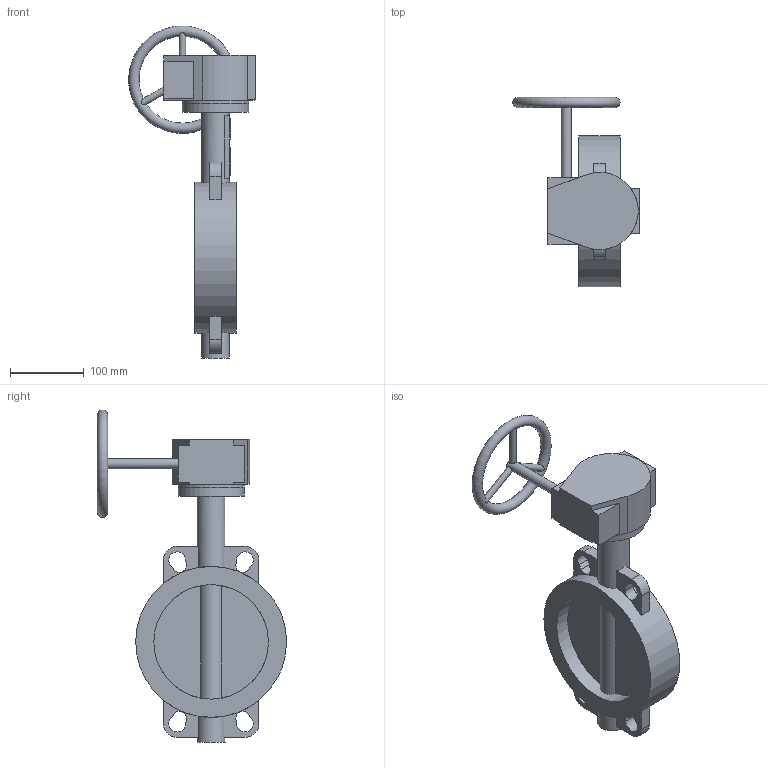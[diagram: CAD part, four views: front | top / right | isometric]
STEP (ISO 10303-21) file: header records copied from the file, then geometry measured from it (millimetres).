
FILE_DESCRIPTION(('STEP AP203'), '1');
FILE_NAME('青蜮铕 017W.ZS DN150 PN10_16 疱潴牝铕', '', ('UNSPECIFIED'), ('UNSPECIFIED'), 'ASCON STEP Converter 1.6', 'ASCON Math Kernel', '');
FILE_SCHEMA(('CONFIG_CONTROL_DESIGN'));
Length unit declared in the file: millimetre
Bounding box: 171.84 x 257 x 450.97 mm (x, y, z)
Volume: 775614.2 mm3; surface area: 253878.7 mm2
Topology: 1 solids, 2 shells, 789 faces, 2329 edges, 1498 vertices
Faces by surface type: cylinder 584, plane 204, torus 1
Full cylindrical faces by diameter (mm): 6.7 x4, 9 x3, 10 x4, 14 x1, 18.9 x1, 38 x2, 55 x1, 90 x2, 155.7 x2, 205 x1
Entity records: 34882 total; most frequent: CARTESIAN_POINT 6390, DIRECTION 5106, ORIENTED_EDGE 4534, EDGE_CURVE 2306, AXIS2_PLACEMENT_3D 2030, VERTEX_POINT 1497, CIRCLE 1240, LINE 1046
